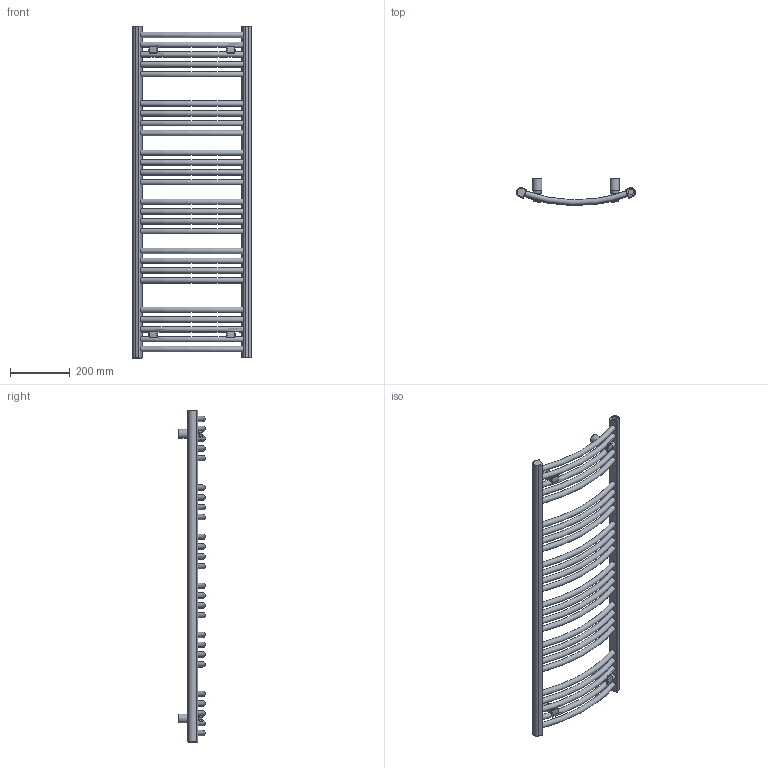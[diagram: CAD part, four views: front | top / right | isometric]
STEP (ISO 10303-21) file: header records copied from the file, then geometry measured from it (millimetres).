
FILE_DESCRIPTION((''),'2;1');
FILE_NAME('Z:\R\G\P\RGPH14 - Grzejnik Domi\Work\Inventor\Marketing\STEP\DO-11-40 SX.stp','2012-07-23T15:56:14',('PioRo'),(''),'Autodesk Inventor 2012','Autodesk Inventor 2012','');
FILE_SCHEMA(('AUTOMOTIVE_DESIGN { 1 0 10303 214 1 1 1 1 }'));
Length unit declared in the file: millimetre
Products named in the file (1): DO-11-44 SX
Bounding box: 400 x 89.81 x 1116 mm (x, y, z)
Volume: 4253735.4 mm3; surface area: 773239.4 mm2
Topology: 1 solids, 5 shells, 224 faces, 539 edges, 342 vertices
Faces by surface type: cylinder 85, plane 73, torus 42, bspline 20, cone 4
Full cylindrical faces by diameter (mm): 5 x8, 9 x4, 18.631 x3, 21.8 x4, 30 x4
Entity records: 7461 total; most frequent: CARTESIAN_POINT 2129, DIRECTION 1050, ORIENTED_EDGE 948, EDGE_CURVE 474, AXIS2_PLACEMENT_3D 451, EDGE_LOOP 368, VERTEX_POINT 330, CIRCLE 226
